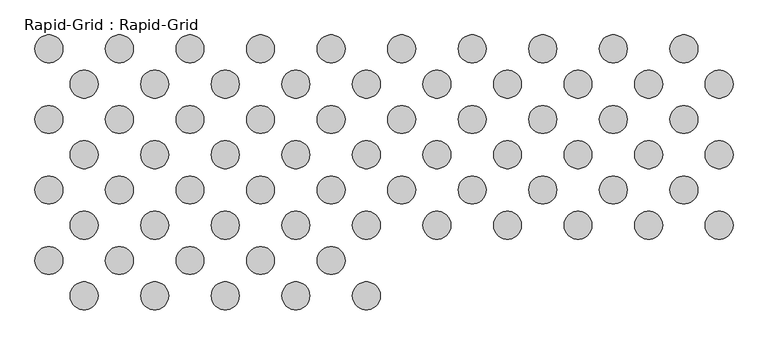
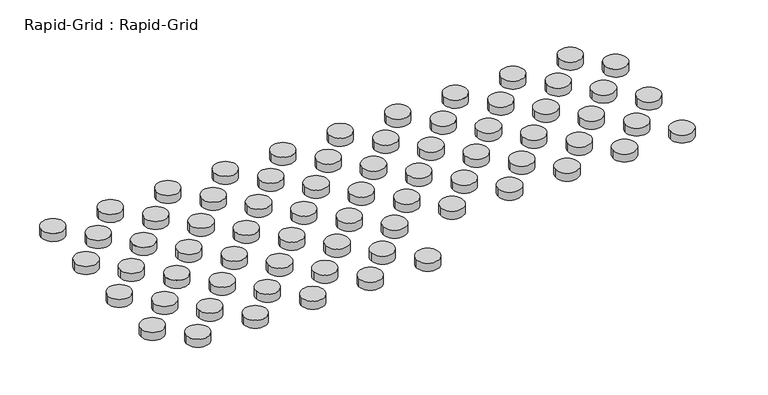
"""IFC4 building model written with IfcOpenShell, lengths in millimetres: proxy geometry, Rapid-Grid : Rapid-Grid."""

from ifc_helpers import new_model, si_unit, point, frame_2d, origin, origin_with_axes, place, context, project, spatial, circle_curve, trimmed, segment, composite_curve, outline, extrude, source, transform, mapped, element, save


def rapid_grid_rapid_grid_63fd30fe(model_context):
    return source(origin(), model_context, "Body", "SweptSolid", [
        extrude(outline(composite_curve([segment(trimmed(circle_curve(frame_2d((723.9, -571.5)), 30.1625), [point((693.7375, -571.5))], [point((754.0625, -571.5))], False, "CARTESIAN"), True, "CONTINUOUS"), segment(trimmed(circle_curve(frame_2d((723.9, -571.5)), 30.1625), [point((754.0625, -571.5))], [point((693.7375, -571.5))], False, "CARTESIAN"), True, "CONTINUOUS")], self_intersect=False)), origin_with_axes(), (0.0, 0.0, 1.0), 22.225),
        extrude(outline(composite_curve([segment(trimmed(circle_curve(frame_2d((647.7, -495.3)), 30.1625), [point((617.5375, -495.3))], [point((677.8625, -495.3))], False, "CARTESIAN"), True, "CONTINUOUS"), segment(trimmed(circle_curve(frame_2d((647.7, -495.3)), 30.1625), [point((677.8625, -495.3))], [point((617.5375, -495.3))], False, "CARTESIAN"), True, "CONTINUOUS")], self_intersect=False)), origin_with_axes(), (0.0, 0.0, 1.0), 22.225),
        extrude(outline(composite_curve([segment(trimmed(circle_curve(frame_2d((571.5, -571.5)), 30.1625), [point((541.3375, -571.5))], [point((601.6625, -571.5))], False, "CARTESIAN"), True, "CONTINUOUS"), segment(trimmed(circle_curve(frame_2d((571.5, -571.5)), 30.1625), [point((601.6625, -571.5))], [point((541.3375, -571.5))], False, "CARTESIAN"), True, "CONTINUOUS")], self_intersect=False)), origin_with_axes(), (0.0, 0.0, 1.0), 22.225),
        extrude(outline(composite_curve([segment(trimmed(circle_curve(frame_2d((495.3, -495.3)), 30.1625), [point((465.1375, -495.3))], [point((525.4625, -495.3))], False, "CARTESIAN"), True, "CONTINUOUS"), segment(trimmed(circle_curve(frame_2d((495.3, -495.3)), 30.1625), [point((525.4625, -495.3))], [point((465.1375, -495.3))], False, "CARTESIAN"), True, "CONTINUOUS")], self_intersect=False)), origin_with_axes(), (0.0, 0.0, 1.0), 22.225),
        extrude(outline(composite_curve([segment(trimmed(circle_curve(frame_2d((419.1, -571.5)), 30.1625), [point((388.9375, -571.5))], [point((449.2625, -571.5))], False, "CARTESIAN"), True, "CONTINUOUS"), segment(trimmed(circle_curve(frame_2d((419.1, -571.5)), 30.1625), [point((449.2625, -571.5))], [point((388.9375, -571.5))], False, "CARTESIAN"), True, "CONTINUOUS")], self_intersect=False)), origin_with_axes(), (0.0, 0.0, 1.0), 22.225),
        extrude(outline(composite_curve([segment(trimmed(circle_curve(frame_2d((342.9, -495.3)), 30.1625), [point((312.7375, -495.3))], [point((373.0625, -495.3))], False, "CARTESIAN"), True, "CONTINUOUS"), segment(trimmed(circle_curve(frame_2d((342.9, -495.3)), 30.1625), [point((373.0625, -495.3))], [point((312.7375, -495.3))], False, "CARTESIAN"), True, "CONTINUOUS")], self_intersect=False)), origin_with_axes(), (0.0, 0.0, 1.0), 22.225),
        extrude(outline(composite_curve([segment(trimmed(circle_curve(frame_2d((266.7, -571.5)), 30.1625), [point((236.5375, -571.5))], [point((296.8625, -571.5))], False, "CARTESIAN"), True, "CONTINUOUS"), segment(trimmed(circle_curve(frame_2d((266.7, -571.5)), 30.1625), [point((296.8625, -571.5))], [point((236.5375, -571.5))], False, "CARTESIAN"), True, "CONTINUOUS")], self_intersect=False)), origin_with_axes(), (0.0, 0.0, 1.0), 22.225),
        extrude(outline(composite_curve([segment(trimmed(circle_curve(frame_2d((190.5, -495.3)), 30.1625), [point((160.3375, -495.3))], [point((220.6625, -495.3))], False, "CARTESIAN"), True, "CONTINUOUS"), segment(trimmed(circle_curve(frame_2d((190.5, -495.3)), 30.1625), [point((220.6625, -495.3))], [point((160.3375, -495.3))], False, "CARTESIAN"), True, "CONTINUOUS")], self_intersect=False)), origin_with_axes(), (0.0, 0.0, 1.0), 22.225),
        extrude(outline(composite_curve([segment(trimmed(circle_curve(frame_2d((114.3, -571.5)), 30.1625), [point((84.1375, -571.5))], [point((144.4625, -571.5))], False, "CARTESIAN"), True, "CONTINUOUS"), segment(trimmed(circle_curve(frame_2d((114.3, -571.5)), 30.1625), [point((144.4625, -571.5))], [point((84.1375, -571.5))], False, "CARTESIAN"), True, "CONTINUOUS")], self_intersect=False)), origin_with_axes(), (0.0, 0.0, 1.0), 22.225),
        extrude(outline(composite_curve([segment(trimmed(circle_curve(frame_2d((38.1, -495.3)), 30.1625), [point((7.9375, -495.3))], [point((68.2625, -495.3))], False, "CARTESIAN"), True, "CONTINUOUS"), segment(trimmed(circle_curve(frame_2d((38.1, -495.3)), 30.1625), [point((68.2625, -495.3))], [point((7.9375, -495.3))], False, "CARTESIAN"), True, "CONTINUOUS")], self_intersect=False)), origin_with_axes(), (0.0, 0.0, 1.0), 22.225),
        extrude(outline(composite_curve([segment(trimmed(circle_curve(frame_2d((1485.9, -419.1)), 30.1625), [point((1455.7375, -419.1))], [point((1516.0625, -419.1))], False, "CARTESIAN"), True, "CONTINUOUS"), segment(trimmed(circle_curve(frame_2d((1485.9, -419.1)), 30.1625), [point((1516.0625, -419.1))], [point((1455.7375, -419.1))], False, "CARTESIAN"), True, "CONTINUOUS")], self_intersect=False)), origin_with_axes(), (0.0, 0.0, 1.0), 22.225),
        extrude(outline(composite_curve([segment(trimmed(circle_curve(frame_2d((1409.7, -342.9)), 30.1625), [point((1379.5375, -342.9))], [point((1439.8625, -342.9))], False, "CARTESIAN"), True, "CONTINUOUS"), segment(trimmed(circle_curve(frame_2d((1409.7, -342.9)), 30.1625), [point((1439.8625, -342.9))], [point((1379.5375, -342.9))], False, "CARTESIAN"), True, "CONTINUOUS")], self_intersect=False)), origin_with_axes(), (0.0, 0.0, 1.0), 22.225),
        extrude(outline(composite_curve([segment(trimmed(circle_curve(frame_2d((1333.5, -419.1)), 30.1625), [point((1303.3375, -419.1))], [point((1363.6625, -419.1))], False, "CARTESIAN"), True, "CONTINUOUS"), segment(trimmed(circle_curve(frame_2d((1333.5, -419.1)), 30.1625), [point((1363.6625, -419.1))], [point((1303.3375, -419.1))], False, "CARTESIAN"), True, "CONTINUOUS")], self_intersect=False)), origin_with_axes(), (0.0, 0.0, 1.0), 22.225),
        extrude(outline(composite_curve([segment(trimmed(circle_curve(frame_2d((1257.3, -342.9)), 30.1625), [point((1227.1375, -342.9))], [point((1287.4625, -342.9))], False, "CARTESIAN"), True, "CONTINUOUS"), segment(trimmed(circle_curve(frame_2d((1257.3, -342.9)), 30.1625), [point((1287.4625, -342.9))], [point((1227.1375, -342.9))], False, "CARTESIAN"), True, "CONTINUOUS")], self_intersect=False)), origin_with_axes(), (0.0, 0.0, 1.0), 22.225),
        extrude(outline(composite_curve([segment(trimmed(circle_curve(frame_2d((1181.1, -419.1)), 30.1625), [point((1150.9375, -419.1))], [point((1211.2625, -419.1))], False, "CARTESIAN"), True, "CONTINUOUS"), segment(trimmed(circle_curve(frame_2d((1181.1, -419.1)), 30.1625), [point((1211.2625, -419.1))], [point((1150.9375, -419.1))], False, "CARTESIAN"), True, "CONTINUOUS")], self_intersect=False)), origin_with_axes(), (0.0, 0.0, 1.0), 22.225),
        extrude(outline(composite_curve([segment(trimmed(circle_curve(frame_2d((1104.9, -342.9)), 30.1625), [point((1074.7375, -342.9))], [point((1135.0625, -342.9))], False, "CARTESIAN"), True, "CONTINUOUS"), segment(trimmed(circle_curve(frame_2d((1104.9, -342.9)), 30.1625), [point((1135.0625, -342.9))], [point((1074.7375, -342.9))], False, "CARTESIAN"), True, "CONTINUOUS")], self_intersect=False)), origin_with_axes(), (0.0, 0.0, 1.0), 22.225),
        extrude(outline(composite_curve([segment(trimmed(circle_curve(frame_2d((1028.7, -419.1)), 30.1625), [point((998.5375, -419.1))], [point((1058.8625, -419.1))], False, "CARTESIAN"), True, "CONTINUOUS"), segment(trimmed(circle_curve(frame_2d((1028.7, -419.1)), 30.1625), [point((1058.8625, -419.1))], [point((998.5375, -419.1))], False, "CARTESIAN"), True, "CONTINUOUS")], self_intersect=False)), origin_with_axes(), (0.0, 0.0, 1.0), 22.225),
        extrude(outline(composite_curve([segment(trimmed(circle_curve(frame_2d((952.5, -342.9)), 30.1625), [point((922.3375, -342.9))], [point((982.6625, -342.9))], False, "CARTESIAN"), True, "CONTINUOUS"), segment(trimmed(circle_curve(frame_2d((952.5, -342.9)), 30.1625), [point((982.6625, -342.9))], [point((922.3375, -342.9))], False, "CARTESIAN"), True, "CONTINUOUS")], self_intersect=False)), origin_with_axes(), (0.0, 0.0, 1.0), 22.225),
        extrude(outline(composite_curve([segment(trimmed(circle_curve(frame_2d((876.3, -419.1)), 30.1625), [point((846.1375, -419.1))], [point((906.4625, -419.1))], False, "CARTESIAN"), True, "CONTINUOUS"), segment(trimmed(circle_curve(frame_2d((876.3, -419.1)), 30.1625), [point((906.4625, -419.1))], [point((846.1375, -419.1))], False, "CARTESIAN"), True, "CONTINUOUS")], self_intersect=False)), origin_with_axes(), (0.0, 0.0, 1.0), 22.225),
        extrude(outline(composite_curve([segment(trimmed(circle_curve(frame_2d((800.1, -342.9)), 30.1625), [point((769.9375, -342.9))], [point((830.2625, -342.9))], False, "CARTESIAN"), True, "CONTINUOUS"), segment(trimmed(circle_curve(frame_2d((800.1, -342.9)), 30.1625), [point((830.2625, -342.9))], [point((769.9375, -342.9))], False, "CARTESIAN"), True, "CONTINUOUS")], self_intersect=False)), origin_with_axes(), (0.0, 0.0, 1.0), 22.225),
        extrude(outline(composite_curve([segment(trimmed(circle_curve(frame_2d((723.9, -419.1)), 30.1625), [point((693.7375, -419.1))], [point((754.0625, -419.1))], False, "CARTESIAN"), True, "CONTINUOUS"), segment(trimmed(circle_curve(frame_2d((723.9, -419.1)), 30.1625), [point((754.0625, -419.1))], [point((693.7375, -419.1))], False, "CARTESIAN"), True, "CONTINUOUS")], self_intersect=False)), origin_with_axes(), (0.0, 0.0, 1.0), 22.225),
        extrude(outline(composite_curve([segment(trimmed(circle_curve(frame_2d((647.7, -342.9)), 30.1625), [point((617.5375, -342.9))], [point((677.8625, -342.9))], False, "CARTESIAN"), True, "CONTINUOUS"), segment(trimmed(circle_curve(frame_2d((647.7, -342.9)), 30.1625), [point((677.8625, -342.9))], [point((617.5375, -342.9))], False, "CARTESIAN"), True, "CONTINUOUS")], self_intersect=False)), origin_with_axes(), (0.0, 0.0, 1.0), 22.225),
        extrude(outline(composite_curve([segment(trimmed(circle_curve(frame_2d((571.5, -419.1)), 30.1625), [point((541.3375, -419.1))], [point((601.6625, -419.1))], False, "CARTESIAN"), True, "CONTINUOUS"), segment(trimmed(circle_curve(frame_2d((571.5, -419.1)), 30.1625), [point((601.6625, -419.1))], [point((541.3375, -419.1))], False, "CARTESIAN"), True, "CONTINUOUS")], self_intersect=False)), origin_with_axes(), (0.0, 0.0, 1.0), 22.225),
        extrude(outline(composite_curve([segment(trimmed(circle_curve(frame_2d((495.3, -342.9)), 30.1625), [point((465.1375, -342.9))], [point((525.4625, -342.9))], False, "CARTESIAN"), True, "CONTINUOUS"), segment(trimmed(circle_curve(frame_2d((495.3, -342.9)), 30.1625), [point((525.4625, -342.9))], [point((465.1375, -342.9))], False, "CARTESIAN"), True, "CONTINUOUS")], self_intersect=False)), origin_with_axes(), (0.0, 0.0, 1.0), 22.225),
        extrude(outline(composite_curve([segment(trimmed(circle_curve(frame_2d((419.1, -419.1)), 30.1625), [point((388.9375, -419.1))], [point((449.2625, -419.1))], False, "CARTESIAN"), True, "CONTINUOUS"), segment(trimmed(circle_curve(frame_2d((419.1, -419.1)), 30.1625), [point((449.2625, -419.1))], [point((388.9375, -419.1))], False, "CARTESIAN"), True, "CONTINUOUS")], self_intersect=False)), origin_with_axes(), (0.0, 0.0, 1.0), 22.225),
        extrude(outline(composite_curve([segment(trimmed(circle_curve(frame_2d((342.9, -342.9)), 30.1625), [point((312.7375, -342.9))], [point((373.0625, -342.9))], False, "CARTESIAN"), True, "CONTINUOUS"), segment(trimmed(circle_curve(frame_2d((342.9, -342.9)), 30.1625), [point((373.0625, -342.9))], [point((312.7375, -342.9))], False, "CARTESIAN"), True, "CONTINUOUS")], self_intersect=False)), origin_with_axes(), (0.0, 0.0, 1.0), 22.225),
        extrude(outline(composite_curve([segment(trimmed(circle_curve(frame_2d((266.7, -419.1)), 30.1625), [point((236.5375, -419.1))], [point((296.8625, -419.1))], False, "CARTESIAN"), True, "CONTINUOUS"), segment(trimmed(circle_curve(frame_2d((266.7, -419.1)), 30.1625), [point((296.8625, -419.1))], [point((236.5375, -419.1))], False, "CARTESIAN"), True, "CONTINUOUS")], self_intersect=False)), origin_with_axes(), (0.0, 0.0, 1.0), 22.225),
        extrude(outline(composite_curve([segment(trimmed(circle_curve(frame_2d((190.5, -342.9)), 30.1625), [point((160.3375, -342.9))], [point((220.6625, -342.9))], False, "CARTESIAN"), True, "CONTINUOUS"), segment(trimmed(circle_curve(frame_2d((190.5, -342.9)), 30.1625), [point((220.6625, -342.9))], [point((160.3375, -342.9))], False, "CARTESIAN"), True, "CONTINUOUS")], self_intersect=False)), origin_with_axes(), (0.0, 0.0, 1.0), 22.225),
        extrude(outline(composite_curve([segment(trimmed(circle_curve(frame_2d((114.3, -419.1)), 30.1625), [point((84.1375, -419.1))], [point((144.4625, -419.1))], False, "CARTESIAN"), True, "CONTINUOUS"), segment(trimmed(circle_curve(frame_2d((114.3, -419.1)), 30.1625), [point((144.4625, -419.1))], [point((84.1375, -419.1))], False, "CARTESIAN"), True, "CONTINUOUS")], self_intersect=False)), origin_with_axes(), (0.0, 0.0, 1.0), 22.225),
        extrude(outline(composite_curve([segment(trimmed(circle_curve(frame_2d((38.1, -342.9)), 30.1625), [point((7.9375, -342.9))], [point((68.2625, -342.9))], False, "CARTESIAN"), True, "CONTINUOUS"), segment(trimmed(circle_curve(frame_2d((38.1, -342.9)), 30.1625), [point((68.2625, -342.9))], [point((7.9375, -342.9))], False, "CARTESIAN"), True, "CONTINUOUS")], self_intersect=False)), origin_with_axes(), (0.0, 0.0, 1.0), 22.225),
        extrude(outline(composite_curve([segment(trimmed(circle_curve(frame_2d((1485.9, -114.3)), 30.1625), [point((1455.7375, -114.3))], [point((1516.0625, -114.3))], False, "CARTESIAN"), True, "CONTINUOUS"), segment(trimmed(circle_curve(frame_2d((1485.9, -114.3)), 30.1625), [point((1516.0625, -114.3))], [point((1455.7375, -114.3))], False, "CARTESIAN"), True, "CONTINUOUS")], self_intersect=False)), origin_with_axes(), (0.0, 0.0, 1.0), 22.225),
        extrude(outline(composite_curve([segment(trimmed(circle_curve(frame_2d((1409.7, -38.1)), 30.1625), [point((1379.5375, -38.1))], [point((1439.8625, -38.1))], False, "CARTESIAN"), True, "CONTINUOUS"), segment(trimmed(circle_curve(frame_2d((1409.7, -38.1)), 30.1625), [point((1439.8625, -38.1))], [point((1379.5375, -38.1))], False, "CARTESIAN"), True, "CONTINUOUS")], self_intersect=False)), origin_with_axes(), (0.0, 0.0, 1.0), 22.225),
        extrude(outline(composite_curve([segment(trimmed(circle_curve(frame_2d((1333.5, -114.3)), 30.1625), [point((1303.3375, -114.3))], [point((1363.6625, -114.3))], False, "CARTESIAN"), True, "CONTINUOUS"), segment(trimmed(circle_curve(frame_2d((1333.5, -114.3)), 30.1625), [point((1363.6625, -114.3))], [point((1303.3375, -114.3))], False, "CARTESIAN"), True, "CONTINUOUS")], self_intersect=False)), origin_with_axes(), (0.0, 0.0, 1.0), 22.225),
        extrude(outline(composite_curve([segment(trimmed(circle_curve(frame_2d((1257.3, -38.1)), 30.1625), [point((1227.1375, -38.1))], [point((1287.4625, -38.1))], False, "CARTESIAN"), True, "CONTINUOUS"), segment(trimmed(circle_curve(frame_2d((1257.3, -38.1)), 30.1625), [point((1287.4625, -38.1))], [point((1227.1375, -38.1))], False, "CARTESIAN"), True, "CONTINUOUS")], self_intersect=False)), origin_with_axes(), (0.0, 0.0, 1.0), 22.225),
        extrude(outline(composite_curve([segment(trimmed(circle_curve(frame_2d((1181.1, -114.3)), 30.1625), [point((1150.9375, -114.3))], [point((1211.2625, -114.3))], False, "CARTESIAN"), True, "CONTINUOUS"), segment(trimmed(circle_curve(frame_2d((1181.1, -114.3)), 30.1625), [point((1211.2625, -114.3))], [point((1150.9375, -114.3))], False, "CARTESIAN"), True, "CONTINUOUS")], self_intersect=False)), origin_with_axes(), (0.0, 0.0, 1.0), 22.225),
        extrude(outline(composite_curve([segment(trimmed(circle_curve(frame_2d((1104.9, -38.1)), 30.1625), [point((1074.7375, -38.1))], [point((1135.0625, -38.1))], False, "CARTESIAN"), True, "CONTINUOUS"), segment(trimmed(circle_curve(frame_2d((1104.9, -38.1)), 30.1625), [point((1135.0625, -38.1))], [point((1074.7375, -38.1))], False, "CARTESIAN"), True, "CONTINUOUS")], self_intersect=False)), origin_with_axes(), (0.0, 0.0, 1.0), 22.225),
        extrude(outline(composite_curve([segment(trimmed(circle_curve(frame_2d((1028.7, -114.3)), 30.1625), [point((998.5375, -114.3))], [point((1058.8625, -114.3))], False, "CARTESIAN"), True, "CONTINUOUS"), segment(trimmed(circle_curve(frame_2d((1028.7, -114.3)), 30.1625), [point((1058.8625, -114.3))], [point((998.5375, -114.3))], False, "CARTESIAN"), True, "CONTINUOUS")], self_intersect=False)), origin_with_axes(), (0.0, 0.0, 1.0), 22.225),
        extrude(outline(composite_curve([segment(trimmed(circle_curve(frame_2d((952.5, -38.1)), 30.1625), [point((922.3375, -38.1))], [point((982.6625, -38.1))], False, "CARTESIAN"), True, "CONTINUOUS"), segment(trimmed(circle_curve(frame_2d((952.5, -38.1)), 30.1625), [point((982.6625, -38.1))], [point((922.3375, -38.1))], False, "CARTESIAN"), True, "CONTINUOUS")], self_intersect=False)), origin_with_axes(), (0.0, 0.0, 1.0), 22.225),
        extrude(outline(composite_curve([segment(trimmed(circle_curve(frame_2d((876.3, -114.3)), 30.1625), [point((846.1375, -114.3))], [point((906.4625, -114.3))], False, "CARTESIAN"), True, "CONTINUOUS"), segment(trimmed(circle_curve(frame_2d((876.3, -114.3)), 30.1625), [point((906.4625, -114.3))], [point((846.1375, -114.3))], False, "CARTESIAN"), True, "CONTINUOUS")], self_intersect=False)), origin_with_axes(), (0.0, 0.0, 1.0), 22.225),
        extrude(outline(composite_curve([segment(trimmed(circle_curve(frame_2d((800.1, -38.1)), 30.1625), [point((769.9375, -38.1))], [point((830.2625, -38.1))], False, "CARTESIAN"), True, "CONTINUOUS"), segment(trimmed(circle_curve(frame_2d((800.1, -38.1)), 30.1625), [point((830.2625, -38.1))], [point((769.9375, -38.1))], False, "CARTESIAN"), True, "CONTINUOUS")], self_intersect=False)), origin_with_axes(), (0.0, 0.0, 1.0), 22.225),
        extrude(outline(composite_curve([segment(trimmed(circle_curve(frame_2d((723.9, -114.3)), 30.1625), [point((693.7375, -114.3))], [point((754.0625, -114.3))], False, "CARTESIAN"), True, "CONTINUOUS"), segment(trimmed(circle_curve(frame_2d((723.9, -114.3)), 30.1625), [point((754.0625, -114.3))], [point((693.7375, -114.3))], False, "CARTESIAN"), True, "CONTINUOUS")], self_intersect=False)), origin_with_axes(), (0.0, 0.0, 1.0), 22.225),
        extrude(outline(composite_curve([segment(trimmed(circle_curve(frame_2d((647.7, -38.1)), 30.1625), [point((617.5375, -38.1))], [point((677.8625, -38.1))], False, "CARTESIAN"), True, "CONTINUOUS"), segment(trimmed(circle_curve(frame_2d((647.7, -38.1)), 30.1625), [point((677.8625, -38.1))], [point((617.5375, -38.1))], False, "CARTESIAN"), True, "CONTINUOUS")], self_intersect=False)), origin_with_axes(), (0.0, 0.0, 1.0), 22.225),
        extrude(outline(composite_curve([segment(trimmed(circle_curve(frame_2d((571.5, -114.3)), 30.1625), [point((541.3375, -114.3))], [point((601.6625, -114.3))], False, "CARTESIAN"), True, "CONTINUOUS"), segment(trimmed(circle_curve(frame_2d((571.5, -114.3)), 30.1625), [point((601.6625, -114.3))], [point((541.3375, -114.3))], False, "CARTESIAN"), True, "CONTINUOUS")], self_intersect=False)), origin_with_axes(), (0.0, 0.0, 1.0), 22.225),
        extrude(outline(composite_curve([segment(trimmed(circle_curve(frame_2d((495.3, -38.1)), 30.1625), [point((465.1375, -38.1))], [point((525.4625, -38.1))], False, "CARTESIAN"), True, "CONTINUOUS"), segment(trimmed(circle_curve(frame_2d((495.3, -38.1)), 30.1625), [point((525.4625, -38.1))], [point((465.1375, -38.1))], False, "CARTESIAN"), True, "CONTINUOUS")], self_intersect=False)), origin_with_axes(), (0.0, 0.0, 1.0), 22.225),
        extrude(outline(composite_curve([segment(trimmed(circle_curve(frame_2d((419.1, -114.3)), 30.1625), [point((388.9375, -114.3))], [point((449.2625, -114.3))], False, "CARTESIAN"), True, "CONTINUOUS"), segment(trimmed(circle_curve(frame_2d((419.1, -114.3)), 30.1625), [point((449.2625, -114.3))], [point((388.9375, -114.3))], False, "CARTESIAN"), True, "CONTINUOUS")], self_intersect=False)), origin_with_axes(), (0.0, 0.0, 1.0), 22.225),
        extrude(outline(composite_curve([segment(trimmed(circle_curve(frame_2d((342.9, -38.1)), 30.1625), [point((312.7375, -38.1))], [point((373.0625, -38.1))], False, "CARTESIAN"), True, "CONTINUOUS"), segment(trimmed(circle_curve(frame_2d((342.9, -38.1)), 30.1625), [point((373.0625, -38.1))], [point((312.7375, -38.1))], False, "CARTESIAN"), True, "CONTINUOUS")], self_intersect=False)), origin_with_axes(), (0.0, 0.0, 1.0), 22.225),
        extrude(outline(composite_curve([segment(trimmed(circle_curve(frame_2d((1485.9, -266.7)), 30.1625), [point((1455.7375, -266.7))], [point((1516.0625, -266.7))], False, "CARTESIAN"), True, "CONTINUOUS"), segment(trimmed(circle_curve(frame_2d((1485.9, -266.7)), 30.1625), [point((1516.0625, -266.7))], [point((1455.7375, -266.7))], False, "CARTESIAN"), True, "CONTINUOUS")], self_intersect=False)), origin_with_axes(), (0.0, 0.0, 1.0), 22.225),
        extrude(outline(composite_curve([segment(trimmed(circle_curve(frame_2d((1409.7, -190.5)), 30.1625), [point((1379.5375, -190.5))], [point((1439.8625, -190.5))], False, "CARTESIAN"), True, "CONTINUOUS"), segment(trimmed(circle_curve(frame_2d((1409.7, -190.5)), 30.1625), [point((1439.8625, -190.5))], [point((1379.5375, -190.5))], False, "CARTESIAN"), True, "CONTINUOUS")], self_intersect=False)), origin_with_axes(), (0.0, 0.0, 1.0), 22.225),
        extrude(outline(composite_curve([segment(trimmed(circle_curve(frame_2d((1333.5, -266.7)), 30.1625), [point((1303.3375, -266.7))], [point((1363.6625, -266.7))], False, "CARTESIAN"), True, "CONTINUOUS"), segment(trimmed(circle_curve(frame_2d((1333.5, -266.7)), 30.1625), [point((1363.6625, -266.7))], [point((1303.3375, -266.7))], False, "CARTESIAN"), True, "CONTINUOUS")], self_intersect=False)), origin_with_axes(), (0.0, 0.0, 1.0), 22.225),
        extrude(outline(composite_curve([segment(trimmed(circle_curve(frame_2d((1257.3, -190.5)), 30.1625), [point((1227.1375, -190.5))], [point((1287.4625, -190.5))], False, "CARTESIAN"), True, "CONTINUOUS"), segment(trimmed(circle_curve(frame_2d((1257.3, -190.5)), 30.1625), [point((1287.4625, -190.5))], [point((1227.1375, -190.5))], False, "CARTESIAN"), True, "CONTINUOUS")], self_intersect=False)), origin_with_axes(), (0.0, 0.0, 1.0), 22.225),
        extrude(outline(composite_curve([segment(trimmed(circle_curve(frame_2d((1181.1, -266.7)), 30.1625), [point((1150.9375, -266.7))], [point((1211.2625, -266.7))], False, "CARTESIAN"), True, "CONTINUOUS"), segment(trimmed(circle_curve(frame_2d((1181.1, -266.7)), 30.1625), [point((1211.2625, -266.7))], [point((1150.9375, -266.7))], False, "CARTESIAN"), True, "CONTINUOUS")], self_intersect=False)), origin_with_axes(), (0.0, 0.0, 1.0), 22.225),
        extrude(outline(composite_curve([segment(trimmed(circle_curve(frame_2d((1104.9, -190.5)), 30.1625), [point((1074.7375, -190.5))], [point((1135.0625, -190.5))], False, "CARTESIAN"), True, "CONTINUOUS"), segment(trimmed(circle_curve(frame_2d((1104.9, -190.5)), 30.1625), [point((1135.0625, -190.5))], [point((1074.7375, -190.5))], False, "CARTESIAN"), True, "CONTINUOUS")], self_intersect=False)), origin_with_axes(), (0.0, 0.0, 1.0), 22.225),
        extrude(outline(composite_curve([segment(trimmed(circle_curve(frame_2d((1028.7, -266.7)), 30.1625), [point((998.5375, -266.7))], [point((1058.8625, -266.7))], False, "CARTESIAN"), True, "CONTINUOUS"), segment(trimmed(circle_curve(frame_2d((1028.7, -266.7)), 30.1625), [point((1058.8625, -266.7))], [point((998.5375, -266.7))], False, "CARTESIAN"), True, "CONTINUOUS")], self_intersect=False)), origin_with_axes(), (0.0, 0.0, 1.0), 22.225),
        extrude(outline(composite_curve([segment(trimmed(circle_curve(frame_2d((952.5, -190.5)), 30.1625), [point((922.3375, -190.5))], [point((982.6625, -190.5))], False, "CARTESIAN"), True, "CONTINUOUS"), segment(trimmed(circle_curve(frame_2d((952.5, -190.5)), 30.1625), [point((982.6625, -190.5))], [point((922.3375, -190.5))], False, "CARTESIAN"), True, "CONTINUOUS")], self_intersect=False)), origin_with_axes(), (0.0, 0.0, 1.0), 22.225),
        extrude(outline(composite_curve([segment(trimmed(circle_curve(frame_2d((876.3, -266.7)), 30.1625), [point((846.1375, -266.7))], [point((906.4625, -266.7))], False, "CARTESIAN"), True, "CONTINUOUS"), segment(trimmed(circle_curve(frame_2d((876.3, -266.7)), 30.1625), [point((906.4625, -266.7))], [point((846.1375, -266.7))], False, "CARTESIAN"), True, "CONTINUOUS")], self_intersect=False)), origin_with_axes(), (0.0, 0.0, 1.0), 22.225),
        extrude(outline(composite_curve([segment(trimmed(circle_curve(frame_2d((800.1, -190.5)), 30.1625), [point((769.9375, -190.5))], [point((830.2625, -190.5))], False, "CARTESIAN"), True, "CONTINUOUS"), segment(trimmed(circle_curve(frame_2d((800.1, -190.5)), 30.1625), [point((830.2625, -190.5))], [point((769.9375, -190.5))], False, "CARTESIAN"), True, "CONTINUOUS")], self_intersect=False)), origin_with_axes(), (0.0, 0.0, 1.0), 22.225),
        extrude(outline(composite_curve([segment(trimmed(circle_curve(frame_2d((723.9, -266.7)), 30.1625), [point((693.7375, -266.7))], [point((754.0625, -266.7))], False, "CARTESIAN"), True, "CONTINUOUS"), segment(trimmed(circle_curve(frame_2d((723.9, -266.7)), 30.1625), [point((754.0625, -266.7))], [point((693.7375, -266.7))], False, "CARTESIAN"), True, "CONTINUOUS")], self_intersect=False)), origin_with_axes(), (0.0, 0.0, 1.0), 22.225),
        extrude(outline(composite_curve([segment(trimmed(circle_curve(frame_2d((647.7, -190.5)), 30.1625), [point((617.5375, -190.5))], [point((677.8625, -190.5))], False, "CARTESIAN"), True, "CONTINUOUS"), segment(trimmed(circle_curve(frame_2d((647.7, -190.5)), 30.1625), [point((677.8625, -190.5))], [point((617.5375, -190.5))], False, "CARTESIAN"), True, "CONTINUOUS")], self_intersect=False)), origin_with_axes(), (0.0, 0.0, 1.0), 22.225),
        extrude(outline(composite_curve([segment(trimmed(circle_curve(frame_2d((571.5, -266.7)), 30.1625), [point((541.3375, -266.7))], [point((601.6625, -266.7))], False, "CARTESIAN"), True, "CONTINUOUS"), segment(trimmed(circle_curve(frame_2d((571.5, -266.7)), 30.1625), [point((601.6625, -266.7))], [point((541.3375, -266.7))], False, "CARTESIAN"), True, "CONTINUOUS")], self_intersect=False)), origin_with_axes(), (0.0, 0.0, 1.0), 22.225),
        extrude(outline(composite_curve([segment(trimmed(circle_curve(frame_2d((495.3, -190.5)), 30.1625), [point((465.1375, -190.5))], [point((525.4625, -190.5))], False, "CARTESIAN"), True, "CONTINUOUS"), segment(trimmed(circle_curve(frame_2d((495.3, -190.5)), 30.1625), [point((525.4625, -190.5))], [point((465.1375, -190.5))], False, "CARTESIAN"), True, "CONTINUOUS")], self_intersect=False)), origin_with_axes(), (0.0, 0.0, 1.0), 22.225),
        extrude(outline(composite_curve([segment(trimmed(circle_curve(frame_2d((419.1, -266.7)), 30.1625), [point((388.9375, -266.7))], [point((449.2625, -266.7))], False, "CARTESIAN"), True, "CONTINUOUS"), segment(trimmed(circle_curve(frame_2d((419.1, -266.7)), 30.1625), [point((449.2625, -266.7))], [point((388.9375, -266.7))], False, "CARTESIAN"), True, "CONTINUOUS")], self_intersect=False)), origin_with_axes(), (0.0, 0.0, 1.0), 22.225),
        extrude(outline(composite_curve([segment(trimmed(circle_curve(frame_2d((342.9, -190.5)), 30.1625), [point((312.7375, -190.5))], [point((373.0625, -190.5))], False, "CARTESIAN"), True, "CONTINUOUS"), segment(trimmed(circle_curve(frame_2d((342.9, -190.5)), 30.1625), [point((373.0625, -190.5))], [point((312.7375, -190.5))], False, "CARTESIAN"), True, "CONTINUOUS")], self_intersect=False)), origin_with_axes(), (0.0, 0.0, 1.0), 22.225),
        extrude(outline(composite_curve([segment(trimmed(circle_curve(frame_2d((266.7, -266.7)), 30.1625), [point((236.5375, -266.7))], [point((296.8625, -266.7))], False, "CARTESIAN"), True, "CONTINUOUS"), segment(trimmed(circle_curve(frame_2d((266.7, -266.7)), 30.1625), [point((296.8625, -266.7))], [point((236.5375, -266.7))], False, "CARTESIAN"), True, "CONTINUOUS")], self_intersect=False)), origin_with_axes(), (0.0, 0.0, 1.0), 22.225),
        extrude(outline(composite_curve([segment(trimmed(circle_curve(frame_2d((190.5, -190.5)), 30.1625), [point((160.3375, -190.5))], [point((220.6625, -190.5))], False, "CARTESIAN"), True, "CONTINUOUS"), segment(trimmed(circle_curve(frame_2d((190.5, -190.5)), 30.1625), [point((220.6625, -190.5))], [point((160.3375, -190.5))], False, "CARTESIAN"), True, "CONTINUOUS")], self_intersect=False)), origin_with_axes(), (0.0, 0.0, 1.0), 22.225),
        extrude(outline(composite_curve([segment(trimmed(circle_curve(frame_2d((114.3, -266.7)), 30.1625), [point((84.1375, -266.7))], [point((144.4625, -266.7))], False, "CARTESIAN"), True, "CONTINUOUS"), segment(trimmed(circle_curve(frame_2d((114.3, -266.7)), 30.1625), [point((144.4625, -266.7))], [point((84.1375, -266.7))], False, "CARTESIAN"), True, "CONTINUOUS")], self_intersect=False)), origin_with_axes(), (0.0, 0.0, 1.0), 22.225),
        extrude(outline(composite_curve([segment(trimmed(circle_curve(frame_2d((38.1, -190.5)), 30.1625), [point((7.9375, -190.5))], [point((68.2625, -190.5))], False, "CARTESIAN"), True, "CONTINUOUS"), segment(trimmed(circle_curve(frame_2d((38.1, -190.5)), 30.1625), [point((68.2625, -190.5))], [point((7.9375, -190.5))], False, "CARTESIAN"), True, "CONTINUOUS")], self_intersect=False)), origin_with_axes(), (0.0, 0.0, 1.0), 22.225),
        extrude(outline(composite_curve([segment(trimmed(circle_curve(frame_2d((266.7, -114.3)), 30.1625), [point((236.5375, -114.3))], [point((296.8625, -114.3))], False, "CARTESIAN"), True, "CONTINUOUS"), segment(trimmed(circle_curve(frame_2d((266.7, -114.3)), 30.1625), [point((296.8625, -114.3))], [point((236.5375, -114.3))], False, "CARTESIAN"), True, "CONTINUOUS")], self_intersect=False)), origin_with_axes(), (0.0, 0.0, 1.0), 22.225),
        extrude(outline(composite_curve([segment(trimmed(circle_curve(frame_2d((190.5, -38.1)), 30.1625), [point((160.3375, -38.1))], [point((220.6625, -38.1))], False, "CARTESIAN"), True, "CONTINUOUS"), segment(trimmed(circle_curve(frame_2d((190.5, -38.1)), 30.1625), [point((220.6625, -38.1))], [point((160.3375, -38.1))], False, "CARTESIAN"), True, "CONTINUOUS")], self_intersect=False)), origin_with_axes(), (0.0, 0.0, 1.0), 22.225),
        extrude(outline(composite_curve([segment(trimmed(circle_curve(frame_2d((114.3, -114.3)), 30.1625), [point((84.1375, -114.3))], [point((144.4625, -114.3))], False, "CARTESIAN"), True, "CONTINUOUS"), segment(trimmed(circle_curve(frame_2d((114.3, -114.3)), 30.1625), [point((144.4625, -114.3))], [point((84.1375, -114.3))], False, "CARTESIAN"), True, "CONTINUOUS")], self_intersect=False)), origin_with_axes(), (0.0, 0.0, 1.0), 22.225),
        extrude(outline(composite_curve([segment(trimmed(circle_curve(frame_2d((38.1, -38.1)), 30.1625), [point((7.9375, -38.1))], [point((68.2625, -38.1))], False, "CARTESIAN"), True, "CONTINUOUS"), segment(trimmed(circle_curve(frame_2d((38.1, -38.1)), 30.1625), [point((68.2625, -38.1))], [point((7.9375, -38.1))], False, "CARTESIAN"), True, "CONTINUOUS")], self_intersect=False)), origin_with_axes(), (0.0, 0.0, 1.0), 22.225),
    ])


if __name__ == "__main__":
    model = new_model("IFC4")
    model_context = context("Model", 3, world=origin())
    ifc_project = project(units=[si_unit("LENGTHUNIT", "METRE", prefix="MILLI")], contexts=[model_context])
    site = spatial("IfcSite", under=ifc_project)
    building = spatial("IfcBuilding", under=site)
    placement = place(None, origin())
    rapid_grid_rapid_grid_shape = rapid_grid_rapid_grid_63fd30fe(model_context)
    element("IfcBuildingElementProxy", 1, Name="Rapid-Grid : Rapid-Grid", ObjectType="Rapid-Grid : Rapid-Grid", at=placement, inside=building, context=model_context, shape_type="MappedRepresentation", body=[
        mapped(rapid_grid_rapid_grid_shape, transform((0.0, 0.0, 0.0), x_axis=(1.0, 0.0, 0.0), y_axis=(0.0, 1.0, 0.0), z_axis=(0.0, 0.0, 1.0))),
    ])
    save(model, "model.ifc")
